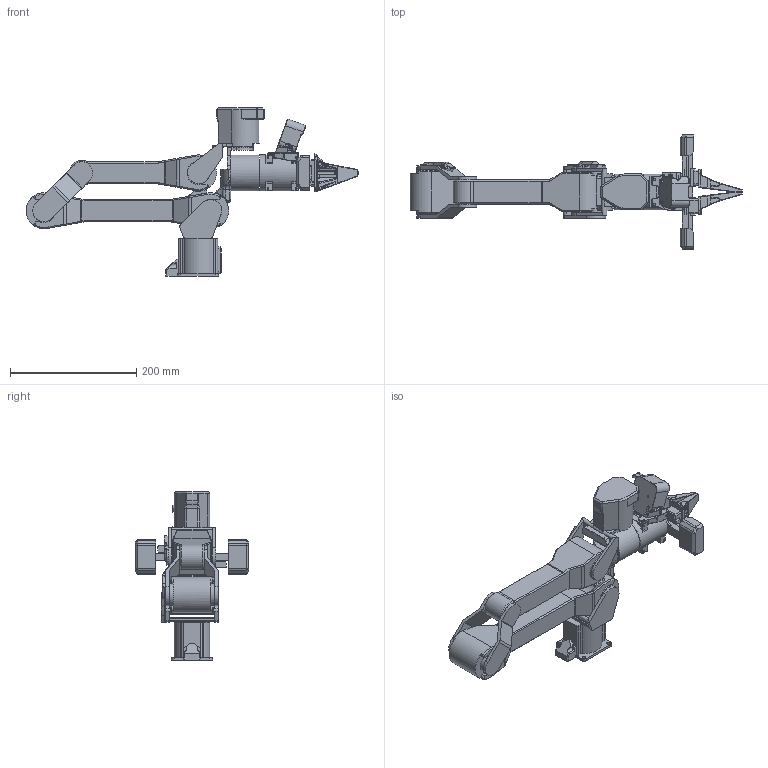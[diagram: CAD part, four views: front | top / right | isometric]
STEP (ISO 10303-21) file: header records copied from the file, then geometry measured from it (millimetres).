
FILE_DESCRIPTION(/* description */ ('STEP AP214','CAx-IF Rec.Pracs.---Representation and Presentation of Product Manufacturing Information (PMI)---4.0---2014-10-13'),/* implementation_level */ '2;1');
FILE_NAME(/* name */ 'WidowX AI Simplified Follower.step',/* time_stamp */ '2025-02-12T16:45:37-06:00',/* author */ (''),/* organization */ (''),/* preprocessor_version */ 'ST-DEVELOPER v20',/* originating_system */ 'Autodesk Translation Framework v13.20.0.188',/* authorisation */ '');
FILE_SCHEMA (('AP242_MANAGED_MODEL_BASED_3D_ENGINEERING_MIM_LF { 1 0 10303 442 1 1 4 }'));
Length unit declared in the file: millimetre
Products named in the file (16): dummy WidowX AI arm; base_link dummy:step:1; link_1 dummy.step; link_2 dummy.step; link_3 dummy.step; link_4 dummy.step; link_5; link_6 standard dummy.step; gripper_leader_right; gripper sock left.step; gripper sock right.step; 103107032_01.step; 103107033_01.step; camera mount dummy.STEP; 103107027_01.STEP; 103107028_01.STEP
Assembly tree (16 placements, depth 3):
  dummy WidowX AI arm
    base_link dummy:step:1
    link_1 dummy.step
    link_2 dummy.step
    link_3 dummy.step
    link_4 dummy.step
    link_5
    link_6 standard dummy.step
    gripper_leader_right  x2
    gripper sock left.step
    gripper sock right.step
    103107032_01.step
    103107033_01.step
    camera mount dummy.STEP
      103107027_01.STEP
      103107028_01.STEP
Bounding box: 525.98 x 180.6 x 266.4 mm (x, y, z)
Volume: 2222633.6 mm3; surface area: 339166.5 mm2
Topology: 17 solids, 17 shells, 2276 faces, 5768 edges, 3529 vertices
Faces by surface type: cylinder 781, plane 758, bspline 511, torus 108, cone 102, sphere 16
Full cylindrical faces by diameter (mm): 2.529 x12, 3.15 x6, 3.25 x26, 5.2 x4, 6 x4, 33.5 x1, 35 x10, 37 x1, 43 x1, 57 x2
Entity records: 97525 total; most frequent: CARTESIAN_POINT 46539, ORIENTED_EDGE 11102, DIRECTION 9933, EDGE_CURVE 5551, AXIS2_PLACEMENT_3D 3709, VERTEX_POINT 3409, LINE 2515, VECTOR 2515
